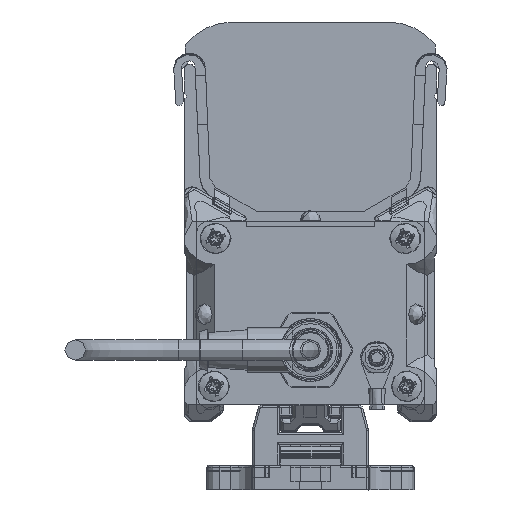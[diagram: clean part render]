
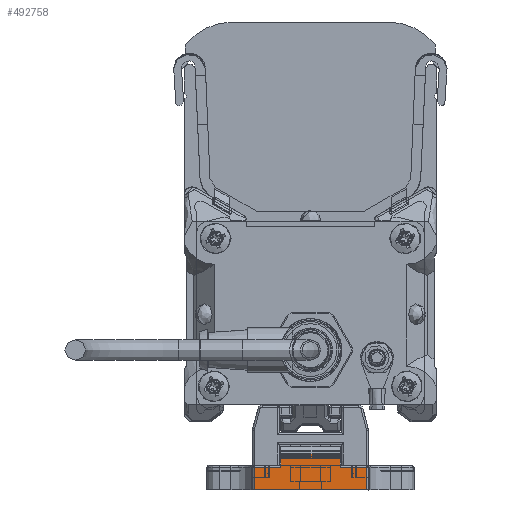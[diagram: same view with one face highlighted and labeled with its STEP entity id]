
A CAD part, left-side view. The second image highlights one B-rep face of the part: STEP entity #492758.
In plain terms, the highlighted planar face has unit normal (-1, 0, 0) as drawn and (1, 0, 0) by its records, which use the part's own axes.
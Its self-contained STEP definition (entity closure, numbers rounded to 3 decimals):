
#186411=ORIENTED_EDGE('',*,*,#264028,.F.);
#186412=ORIENTED_EDGE('',*,*,#264029,.T.);
#186413=ORIENTED_EDGE('',*,*,#264030,.F.);
#186414=ORIENTED_EDGE('',*,*,#264026,.T.);
#186415=ORIENTED_EDGE('',*,*,#264000,.F.);
#186416=ORIENTED_EDGE('',*,*,#264031,.T.);
#186417=ORIENTED_EDGE('',*,*,#264032,.F.);
#186418=ORIENTED_EDGE('',*,*,#264033,.T.);
#226887=VECTOR('',#305313,1.);
#226905=VECTOR('',#305347,1.);
#226906=VECTOR('',#305352,1.);
#226907=VECTOR('',#305353,1.);
#226908=VECTOR('',#305354,1.);
#226909=VECTOR('',#305355,1.);
#226910=VECTOR('',#305356,1.);
#226911=VECTOR('',#305357,1.);
#238684=LINE('',#349701,#226887);
#238702=LINE('',#349792,#226905);
#238703=LINE('',#349797,#226906);
#238704=LINE('',#349799,#226907);
#238705=LINE('',#349800,#226908);
#238706=LINE('',#349802,#226909);
#238707=LINE('',#349804,#226910);
#238708=LINE('',#349805,#226911);
#250610=VERTEX_POINT('',#349698);
#250611=VERTEX_POINT('',#349700);
#250634=VERTEX_POINT('',#349791);
#250635=VERTEX_POINT('',#349795);
#250636=VERTEX_POINT('',#349796);
#250637=VERTEX_POINT('',#349798);
#250638=VERTEX_POINT('',#349801);
#250639=VERTEX_POINT('',#349803);
#264000=EDGE_CURVE('',#250610,#250611,#238684,.T.);
#264026=EDGE_CURVE('',#250634,#250611,#238702,.T.);
#264028=EDGE_CURVE('',#250635,#250636,#238703,.T.);
#264029=EDGE_CURVE('',#250635,#250637,#238704,.T.);
#264030=EDGE_CURVE('',#250634,#250637,#238705,.T.);
#264031=EDGE_CURVE('',#250610,#250638,#238706,.T.);
#264032=EDGE_CURVE('',#250639,#250638,#238707,.T.);
#264033=EDGE_CURVE('',#250639,#250636,#238708,.T.);
#284491=EDGE_LOOP('',(#186411,#186412,#186413,#186414,#186415,#186416,#186417,
#186418));
#294067=FACE_BOUND('',#284491,.T.);
#305313=DIRECTION('',(0.,-26.996,0.));
#305347=DIRECTION('',(0.,0.,-5.5));
#305350=DIRECTION('',(1.,0.,0.));
#305351=DIRECTION('',(0.,-1.,0.));
#305352=DIRECTION('',(0.,14.4,0.));
#305353=DIRECTION('',(0.,0.,-3.1));
#305354=DIRECTION('',(0.,6.298,0.));
#305355=DIRECTION('',(0.,0.,5.5));
#305356=DIRECTION('',(0.,6.298,0.));
#305357=DIRECTION('',(0.,0.,3.1));
#349698=CARTESIAN_POINT('',(96.175,75.88,-3.));
#349700=CARTESIAN_POINT('',(96.175,48.884,-3.));
#349701=CARTESIAN_POINT('',(96.175,75.88,-3.));
#349791=CARTESIAN_POINT('',(96.175,48.884,2.5));
#349792=CARTESIAN_POINT('',(96.175,48.884,2.5));
#349794=CARTESIAN_POINT('',(96.175,55.182,5.6));
#349795=CARTESIAN_POINT('',(96.175,55.182,5.6));
#349796=CARTESIAN_POINT('',(96.175,69.582,5.6));
#349797=CARTESIAN_POINT('',(96.175,55.182,5.6));
#349798=CARTESIAN_POINT('',(96.175,55.182,2.5));
#349799=CARTESIAN_POINT('',(96.175,55.182,5.6));
#349800=CARTESIAN_POINT('',(96.175,48.884,2.5));
#349801=CARTESIAN_POINT('',(96.175,75.88,2.5));
#349802=CARTESIAN_POINT('',(96.175,75.88,-3.));
#349803=CARTESIAN_POINT('',(96.175,69.582,2.5));
#349804=CARTESIAN_POINT('',(96.175,69.582,2.5));
#349805=CARTESIAN_POINT('',(96.175,69.582,2.5));
#473951=AXIS2_PLACEMENT_3D('',#349794,#305350,#305351);
#489038=PLANE('',#473951);
#492758=ADVANCED_FACE('',(#294067),#489038,.T.);
